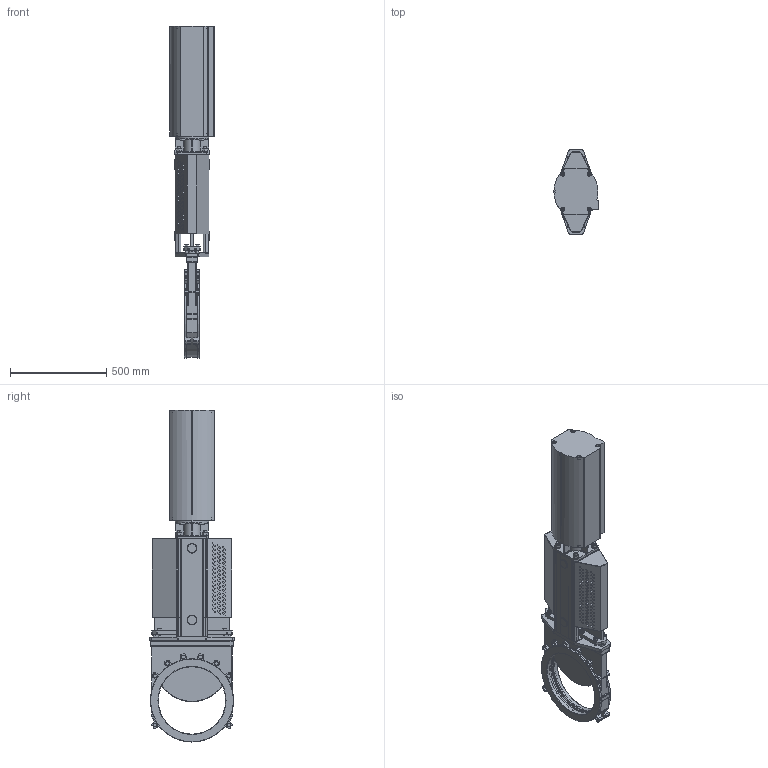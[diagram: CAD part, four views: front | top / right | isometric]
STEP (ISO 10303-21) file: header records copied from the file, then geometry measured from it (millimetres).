
FILE_DESCRIPTION(('STEP AP203'),'1');
FILE_NAME('G:/KONSTRUK/3-d block för CD/XV VALVE/EC/XV-DN350-EC200.stp','2013-01-24T09:47:41',(' '),(' '),'Spatial InterOp 3D',' ',' ');
FILE_SCHEMA(('CONFIG_CONTROL_DESIGN'));
Length unit declared in the file: millimetre
Products named in the file (3): 1; 2; 3
Bounding box: 228.6 x 437 x 1724.1 mm (x, y, z)
Volume: 40180021.2 mm3; surface area: 3270383.7 mm2
Topology: 3 solids, 30 shells, 2360 faces, 6265 edges, 4053 vertices
Faces by surface type: cylinder 1138, plane 886, cone 266, torus 62, sphere 4, bspline 4
Entity records: 76354 total; most frequent: CARTESIAN_POINT 15999, DIRECTION 13231, ORIENTED_EDGE 12468, EDGE_CURVE 6234, AXIS2_PLACEMENT_3D 5140, VERTEX_POINT 4053, LINE 2951, VECTOR 2951
